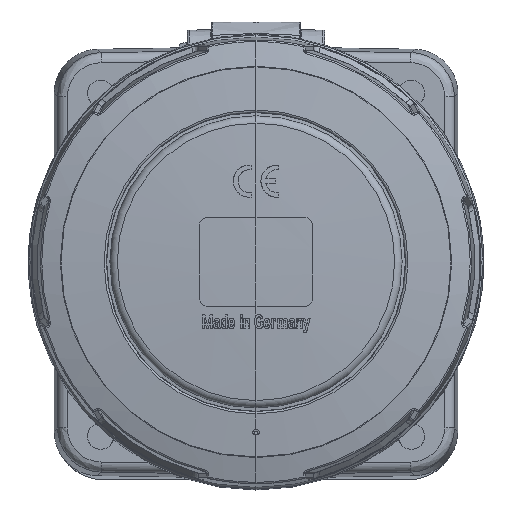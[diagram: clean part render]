
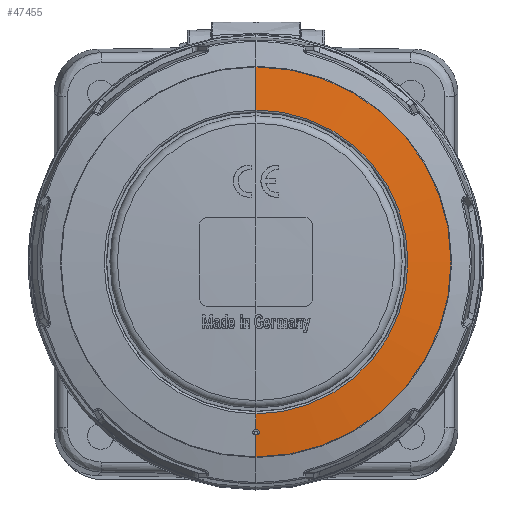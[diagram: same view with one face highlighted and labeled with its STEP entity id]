
A CAD part, top view. The second image highlights one B-rep face of the part: STEP entity #47455.
In plain terms, the highlighted conical face has half-angle 84 degrees and reference radius 42.982 mm.
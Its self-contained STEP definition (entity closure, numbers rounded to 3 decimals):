
#2791=CARTESIAN_POINT('',(0.,-41.491,
77.439));
#2792=CARTESIAN_POINT('',(0.077,-41.491,
77.439));
#2793=CARTESIAN_POINT('',(0.224,-41.511,
77.437));
#2794=CARTESIAN_POINT('',(0.43,-41.6,
77.428));
#2795=CARTESIAN_POINT('',(0.6,-41.738,
77.413));
#2796=CARTESIAN_POINT('',(0.725,-41.914,
77.394));
#2797=CARTESIAN_POINT('',(0.789,-42.095,
77.375));
#2798=CARTESIAN_POINT('',(0.806,-42.262,
77.358));
#2799=CARTESIAN_POINT('',(0.787,-42.409,
77.342));
#2800=CARTESIAN_POINT('',(0.743,-42.534,
77.329));
#2801=CARTESIAN_POINT('',(0.683,-42.635,
77.319));
#2802=CARTESIAN_POINT('',(0.613,-42.714,
77.31));
#2803=CARTESIAN_POINT('',(0.538,-42.77,
77.305));
#2804=CARTESIAN_POINT('',(0.461,-42.806,
77.301));
#2805=CARTESIAN_POINT('',(0.412,-42.816,77.3));
#2806=CARTESIAN_POINT('',(0.387,-42.816,77.3));
#2811=DIRECTION('',(0.,0.995,0.105));
#2812=VECTOR('',#2811,3.874);
#2813=CARTESIAN_POINT('',(0.,-41.491,
77.439));
#2814=LINE('6475',#2813,#2812);
#2818=CARTESIAN_POINT('',(0.,0.,77.844));
#2819=DIRECTION('',(0.,0.,1.));
#2820=DIRECTION('',(0.,-1.,0.));
#2821=AXIS2_PLACEMENT_3D('',#2818,#2819,#2820);
#2826=DIRECTION('',(0.,-0.995,0.105));
#2827=VECTOR('',#2826,10.748);
#2828=CARTESIAN_POINT('',(0.,48.327,
76.721));
#2829=LINE('6469',#2828,#2827);
#2833=CARTESIAN_POINT('',(0.,0.,76.721));
#2834=DIRECTION('',(0.,0.,1.));
#2835=DIRECTION('',(0.,-1.,0.));
#2836=AXIS2_PLACEMENT_3D('',#2833,#2834,#2835);
#2841=DIRECTION('',(0.,0.995,0.105));
#2842=VECTOR('',#2841,5.539);
#2843=CARTESIAN_POINT('',(0.,-48.327,
76.721));
#2844=LINE('6474',#2843,#2842);
#2848=CARTESIAN_POINT('',(0.,0.,77.3));
#2849=DIRECTION('',(0.,0.,-1.));
#2850=DIRECTION('',(0.009,-1.,0.));
#2851=AXIS2_PLACEMENT_3D('',#2848,#2849,#2850);
#2879=CARTESIAN_POINT('',(0.,-41.491,
77.439));
#44386=CARTESIAN_POINT('',(0.,37.638,77.844));
#44387=CARTESIAN_POINT('',(0.,-37.638,77.844));
#44388=VERTEX_POINT('',#44386);
#44389=VERTEX_POINT('',#44387);
#44427=CARTESIAN_POINT('',(0.,-48.327,76.721));
#44428=CARTESIAN_POINT('',(0.,48.327,
76.721));
#44429=VERTEX_POINT('',#44427);
#44430=VERTEX_POINT('',#44428);
#44436=VERTEX_POINT('',#2879);
#44437=VERTEX_POINT('',#2806);
#44438=CARTESIAN_POINT('',(0.,-42.818,77.3));
#44439=VERTEX_POINT('',#44438);
#47435=CARTESIAN_POINT('',(0.,0.,77.283));
#47436=DIRECTION('',(0.,0.,-1.));
#47437=DIRECTION('',(0.,1.,0.));
#47438=AXIS2_PLACEMENT_3D('',#47435,#47436,#47437);
#47439=CONICAL_SURFACE('1832',#47438,42.982,84.);
#47441=ORIENTED_EDGE('6473',*,*,#47440,.F.);
#47443=ORIENTED_EDGE('6475',*,*,#47442,.T.);
#47445=ORIENTED_EDGE('6408',*,*,#47444,.T.);
#47447=ORIENTED_EDGE('6469',*,*,#47446,.F.);
#47448=ORIENTED_EDGE('6465',*,*,#47413,.F.);
#47450=ORIENTED_EDGE('6474',*,*,#47449,.T.);
#47452=ORIENTED_EDGE('6477',*,*,#47451,.F.);
#47453=EDGE_LOOP('1832',(#47441,#47443,#47445,#47447,#47448,#47450,#47452));
#47454=FACE_OUTER_BOUND('1832',#47453,.F.);
#2807=B_SPLINE_CURVE_WITH_KNOTS('6473',3,(#2791,#2792,#2793,#2794,#2795,#2796,
#2797,#2798,#2799,#2800,#2801,#2802,#2803,#2804,#2805,#2806),.UNSPECIFIED.,.F.,
.F.,(4,1,1,1,1,1,1,1,1,1,1,1,1,4),(0.,0.077,0.154,
0.231,0.308,0.385,0.462,
0.538,0.615,0.692,0.769,
0.846,0.923,1.),.UNSPECIFIED.);
#2822=CIRCLE('6408',#2821,37.638);
#2837=CIRCLE('6465',#2836,48.327);
#2852=CIRCLE('6477',#2851,42.818);
#47413=EDGE_CURVE('6465',#44429,#44430,#2837,.T.);
#47440=EDGE_CURVE('6473',#44436,#44437,#2807,.T.);
#47442=EDGE_CURVE('6475',#44436,#44389,#2814,.T.);
#47444=EDGE_CURVE('6408',#44389,#44388,#2822,.T.);
#47446=EDGE_CURVE('6469',#44430,#44388,#2829,.T.);
#47449=EDGE_CURVE('6474',#44429,#44439,#2844,.T.);
#47451=EDGE_CURVE('6477',#44437,#44439,#2852,.T.);
#47455=ADVANCED_FACE('1832',(#47454),#47439,.T.);
